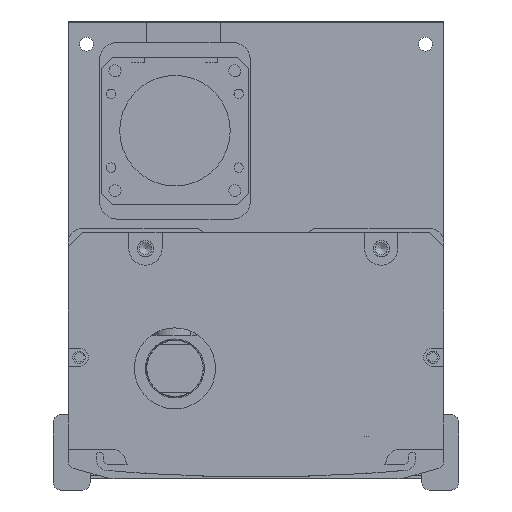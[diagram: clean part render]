
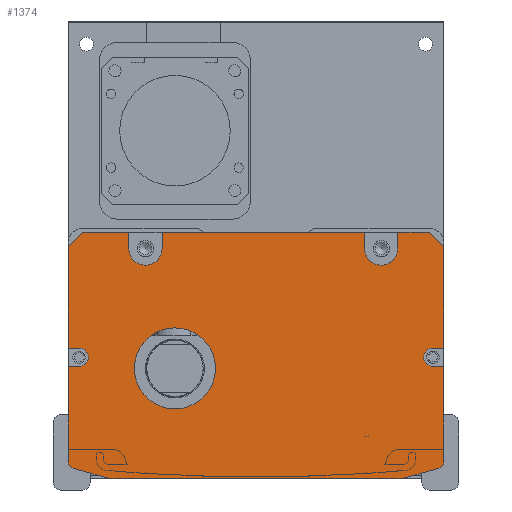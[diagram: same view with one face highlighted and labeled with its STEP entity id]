
A CAD part, front view. The second image highlights one B-rep face of the part: STEP entity #1374.
In plain terms, the highlighted planar face has unit normal (0, -1, 0).
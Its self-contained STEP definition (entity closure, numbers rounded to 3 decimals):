
#1374=ADVANCED_FACE('',(#4064,#4065),#2183,.F.);
#2183=PLANE('',#13348);
#2577=LINE('',#19130,#3339);
#2578=LINE('',#19133,#3340);
#2579=LINE('',#19135,#3341);
#2580=LINE('',#19137,#3342);
#2581=LINE('',#19141,#3343);
#2582=LINE('',#19143,#3344);
#2583=LINE('',#19145,#3345);
#2584=LINE('',#19149,#3346);
#2585=LINE('',#19151,#3347);
#2586=LINE('',#19153,#3348);
#2587=LINE('',#19155,#3349);
#2588=LINE('',#19157,#3350);
#2589=LINE('',#19161,#3351);
#2590=LINE('',#19163,#3352);
#2591=LINE('',#19167,#3353);
#2592=LINE('',#19171,#3354);
#2593=LINE('',#19175,#3355);
#2594=LINE('',#19179,#3356);
#2595=LINE('',#19181,#3357);
#2596=LINE('',#19185,#3358);
#3339=VECTOR('',#15147,1.);
#3340=VECTOR('',#15148,1.);
#3341=VECTOR('',#15149,1.);
#3342=VECTOR('',#15150,1.);
#3343=VECTOR('',#15153,1.);
#3344=VECTOR('',#15154,1.);
#3345=VECTOR('',#15155,1.);
#3346=VECTOR('',#15158,1.);
#3347=VECTOR('',#15159,1.);
#3348=VECTOR('',#15160,1.);
#3349=VECTOR('',#15161,1.);
#3350=VECTOR('',#15162,1.);
#3351=VECTOR('',#15165,1.);
#3352=VECTOR('',#15166,1.);
#3353=VECTOR('',#15169,1.);
#3354=VECTOR('',#15172,1.);
#3355=VECTOR('',#15175,1.);
#3356=VECTOR('',#15178,1.);
#3357=VECTOR('',#15179,1.);
#3358=VECTOR('',#15182,1.);
#4064=FACE_BOUND('',#4790,.T.);
#4065=FACE_BOUND('',#4791,.T.);
#4790=EDGE_LOOP('',(#6129,#6130,#6131,#6132,#6133,#6134,#6135,#6136,#6137,
#6138,#6139,#6140,#6141,#6142,#6143,#6144,#6145,#6146,#6147,#6148,#6149,
#6150,#6151,#6152,#6153,#6154,#6155,#6156));
#4791=EDGE_LOOP('',(#6157));
#6129=ORIENTED_EDGE('',*,*,#10895,.T.);
#6130=ORIENTED_EDGE('',*,*,#10896,.T.);
#6131=ORIENTED_EDGE('',*,*,#10897,.T.);
#6132=ORIENTED_EDGE('',*,*,#10898,.F.);
#6133=ORIENTED_EDGE('',*,*,#10899,.T.);
#6134=ORIENTED_EDGE('',*,*,#10900,.F.);
#6135=ORIENTED_EDGE('',*,*,#10901,.T.);
#6136=ORIENTED_EDGE('',*,*,#10902,.F.);
#6137=ORIENTED_EDGE('',*,*,#10903,.T.);
#6138=ORIENTED_EDGE('',*,*,#10904,.F.);
#6139=ORIENTED_EDGE('',*,*,#10905,.T.);
#6140=ORIENTED_EDGE('',*,*,#10906,.T.);
#6141=ORIENTED_EDGE('',*,*,#10907,.T.);
#6142=ORIENTED_EDGE('',*,*,#10908,.T.);
#6143=ORIENTED_EDGE('',*,*,#10909,.T.);
#6144=ORIENTED_EDGE('',*,*,#10910,.T.);
#6145=ORIENTED_EDGE('',*,*,#10911,.T.);
#6146=ORIENTED_EDGE('',*,*,#10912,.T.);
#6147=ORIENTED_EDGE('',*,*,#10913,.T.);
#6148=ORIENTED_EDGE('',*,*,#10914,.T.);
#6149=ORIENTED_EDGE('',*,*,#10915,.T.);
#6150=ORIENTED_EDGE('',*,*,#10916,.T.);
#6151=ORIENTED_EDGE('',*,*,#10917,.T.);
#6152=ORIENTED_EDGE('',*,*,#10918,.T.);
#6153=ORIENTED_EDGE('',*,*,#10919,.T.);
#6154=ORIENTED_EDGE('',*,*,#10920,.T.);
#6155=ORIENTED_EDGE('',*,*,#10921,.T.);
#6156=ORIENTED_EDGE('',*,*,#10922,.T.);
#6157=ORIENTED_EDGE('',*,*,#10923,.T.);
#9620=VERTEX_POINT('',#19131);
#9621=VERTEX_POINT('',#19132);
#9622=VERTEX_POINT('',#19134);
#9623=VERTEX_POINT('',#19136);
#9624=VERTEX_POINT('',#19138);
#9625=VERTEX_POINT('',#19140);
#9626=VERTEX_POINT('',#19142);
#9627=VERTEX_POINT('',#19144);
#9628=VERTEX_POINT('',#19146);
#9629=VERTEX_POINT('',#19148);
#9630=VERTEX_POINT('',#19150);
#9631=VERTEX_POINT('',#19152);
#9632=VERTEX_POINT('',#19154);
#9633=VERTEX_POINT('',#19156);
#9634=VERTEX_POINT('',#19158);
#9635=VERTEX_POINT('',#19160);
#9636=VERTEX_POINT('',#19162);
#9637=VERTEX_POINT('',#19164);
#9638=VERTEX_POINT('',#19166);
#9639=VERTEX_POINT('',#19168);
#9640=VERTEX_POINT('',#19170);
#9641=VERTEX_POINT('',#19172);
#9642=VERTEX_POINT('',#19174);
#9643=VERTEX_POINT('',#19176);
#9644=VERTEX_POINT('',#19178);
#9645=VERTEX_POINT('',#19180);
#9646=VERTEX_POINT('',#19182);
#9647=VERTEX_POINT('',#19184);
#9648=VERTEX_POINT('',#19187);
#10895=EDGE_CURVE('',#9620,#9621,#2577,.T.);
#10896=EDGE_CURVE('',#9621,#9622,#2578,.T.);
#10897=EDGE_CURVE('',#9622,#9623,#2579,.T.);
#10898=EDGE_CURVE('',#9624,#9623,#2580,.T.);
#10899=EDGE_CURVE('',#9624,#9625,#12546,.T.);
#10900=EDGE_CURVE('',#9626,#9625,#2581,.T.);
#10901=EDGE_CURVE('',#9626,#9627,#2582,.T.);
#10902=EDGE_CURVE('',#9628,#9627,#2583,.T.);
#10903=EDGE_CURVE('',#9628,#9629,#12547,.T.);
#10904=EDGE_CURVE('',#9630,#9629,#2584,.T.);
#10905=EDGE_CURVE('',#9630,#9631,#2585,.T.);
#10906=EDGE_CURVE('',#9631,#9632,#2586,.T.);
#10907=EDGE_CURVE('',#9632,#9633,#2587,.T.);
#10908=EDGE_CURVE('',#9633,#9634,#2588,.T.);
#10909=EDGE_CURVE('',#9634,#9635,#12548,.T.);
#10910=EDGE_CURVE('',#9635,#9636,#2589,.T.);
#10911=EDGE_CURVE('',#9636,#9637,#2590,.T.);
#10912=EDGE_CURVE('',#9637,#9638,#12549,.T.);
#10913=EDGE_CURVE('',#9638,#9639,#2591,.T.);
#10914=EDGE_CURVE('',#9639,#9640,#12550,.T.);
#10915=EDGE_CURVE('',#9640,#9641,#2592,.T.);
#10916=EDGE_CURVE('',#9641,#9642,#12551,.T.);
#10917=EDGE_CURVE('',#9642,#9643,#2593,.T.);
#10918=EDGE_CURVE('',#9643,#9644,#12552,.T.);
#10919=EDGE_CURVE('',#9644,#9645,#2594,.T.);
#10920=EDGE_CURVE('',#9645,#9646,#2595,.T.);
#10921=EDGE_CURVE('',#9646,#9647,#12553,.T.);
#10922=EDGE_CURVE('',#9647,#9620,#2596,.T.);
#10923=EDGE_CURVE('',#9648,#9648,#12554,.T.);
#12546=CIRCLE('',#13339,4.5);
#12547=CIRCLE('',#13340,4.5);
#12548=CIRCLE('',#13341,2.5);
#12549=CIRCLE('',#13342,2.);
#12550=CIRCLE('',#13343,10.);
#12551=CIRCLE('',#13344,10.);
#12552=CIRCLE('',#13345,2.);
#12553=CIRCLE('',#13346,2.5);
#12554=CIRCLE('',#13347,11.);
#13339=AXIS2_PLACEMENT_3D('',#19139,#15151,#15152);
#13340=AXIS2_PLACEMENT_3D('',#19147,#15156,#15157);
#13341=AXIS2_PLACEMENT_3D('',#19159,#15163,#15164);
#13342=AXIS2_PLACEMENT_3D('',#19165,#15167,#15168);
#13343=AXIS2_PLACEMENT_3D('',#19169,#15170,#15171);
#13344=AXIS2_PLACEMENT_3D('',#19173,#15173,#15174);
#13345=AXIS2_PLACEMENT_3D('',#19177,#15176,#15177);
#13346=AXIS2_PLACEMENT_3D('',#19183,#15180,#15181);
#13347=AXIS2_PLACEMENT_3D('',#19186,#15183,#15184);
#13348=AXIS2_PLACEMENT_3D('',#19188,#15185,#15186);
#15147=DIRECTION('',(0.,0.,1.));
#15148=DIRECTION('',(-0.707,0.,0.707));
#15149=DIRECTION('',(-1.,0.,0.));
#15150=DIRECTION('',(0.,0.,1.));
#15151=DIRECTION('',(0.,1.,0.));
#15152=DIRECTION('',(0.,0.,1.));
#15153=DIRECTION('',(0.,0.,-1.));
#15154=DIRECTION('',(-1.,0.,0.));
#15155=DIRECTION('',(0.,0.,1.));
#15156=DIRECTION('',(0.,1.,0.));
#15157=DIRECTION('',(0.,0.,1.));
#15158=DIRECTION('',(0.,0.,-1.));
#15159=DIRECTION('',(-1.,0.,0.));
#15160=DIRECTION('',(-0.707,0.,-0.707));
#15161=DIRECTION('',(0.,0.,-1.));
#15162=DIRECTION('',(1.,0.,0.));
#15163=DIRECTION('',(0.,1.,0.));
#15164=DIRECTION('',(0.,0.,1.));
#15165=DIRECTION('',(-1.,0.,0.));
#15166=DIRECTION('',(0.,0.,-1.));
#15167=DIRECTION('',(0.,-1.,0.));
#15168=DIRECTION('',(0.,0.,1.));
#15169=DIRECTION('',(0.963,0.,-0.269));
#15170=DIRECTION('',(0.,-1.,0.));
#15171=DIRECTION('',(0.,0.,1.));
#15172=DIRECTION('',(1.,0.,0.));
#15173=DIRECTION('',(0.,-1.,0.));
#15174=DIRECTION('',(0.,0.,-1.));
#15175=DIRECTION('',(0.963,0.,0.269));
#15176=DIRECTION('',(0.,-1.,0.));
#15177=DIRECTION('',(0.,0.,-1.));
#15178=DIRECTION('',(0.,0.,1.));
#15179=DIRECTION('',(-1.,0.,0.));
#15180=DIRECTION('',(0.,1.,0.));
#15181=DIRECTION('',(0.,0.,1.));
#15182=DIRECTION('',(1.,0.,0.));
#15183=DIRECTION('',(0.,1.,0.));
#15184=DIRECTION('',(0.,0.,1.));
#15185=DIRECTION('',(0.,1.,0.));
#15186=DIRECTION('',(-1.,0.,0.));
#19130=CARTESIAN_POINT('',(47.808,-817.5,-1.));
#19131=CARTESIAN_POINT('',(47.808,-817.5,-32.5));
#19132=CARTESIAN_POINT('',(47.808,-817.5,-5.));
#19133=CARTESIAN_POINT('',(43.808,-817.5,-1.));
#19134=CARTESIAN_POINT('',(43.808,-817.5,-1.));
#19135=CARTESIAN_POINT('',(-3.192,-817.5,-1.));
#19136=CARTESIAN_POINT('',(35.308,-817.5,-1.));
#19137=CARTESIAN_POINT('',(35.308,-817.5,-1.));
#19138=CARTESIAN_POINT('',(35.308,-817.5,-5.5));
#19139=CARTESIAN_POINT('',(30.808,-817.5,-5.5));
#19140=CARTESIAN_POINT('',(26.308,-817.5,-5.5));
#19141=CARTESIAN_POINT('',(26.308,-817.5,-1.));
#19142=CARTESIAN_POINT('',(26.308,-817.5,-1.));
#19143=CARTESIAN_POINT('',(-54.192,-817.5,-1.));
#19144=CARTESIAN_POINT('',(-28.692,-817.5,-1.));
#19145=CARTESIAN_POINT('',(-28.692,-817.5,-3.5));
#19146=CARTESIAN_POINT('',(-28.692,-817.5,-5.5));
#19147=CARTESIAN_POINT('',(-33.192,-817.5,-5.5));
#19148=CARTESIAN_POINT('',(-37.692,-817.5,-5.5));
#19149=CARTESIAN_POINT('',(-37.692,-817.5,-1.));
#19150=CARTESIAN_POINT('',(-37.692,-817.5,-1.));
#19151=CARTESIAN_POINT('',(-54.192,-817.5,-1.));
#19152=CARTESIAN_POINT('',(-50.192,-817.5,-1.));
#19153=CARTESIAN_POINT('',(-54.192,-817.5,-5.));
#19154=CARTESIAN_POINT('',(-54.192,-817.5,-5.));
#19155=CARTESIAN_POINT('',(-54.192,-817.5,-62.));
#19156=CARTESIAN_POINT('',(-54.192,-817.5,-32.5));
#19157=CARTESIAN_POINT('',(-3.192,-817.5,-32.5));
#19158=CARTESIAN_POINT('',(-51.192,-817.5,-32.5));
#19159=CARTESIAN_POINT('',(-51.192,-817.5,-35.));
#19160=CARTESIAN_POINT('',(-51.192,-817.5,-37.5));
#19161=CARTESIAN_POINT('',(-3.192,-817.5,-37.5));
#19162=CARTESIAN_POINT('',(-54.192,-817.5,-37.5));
#19163=CARTESIAN_POINT('',(-54.192,-817.5,-62.));
#19164=CARTESIAN_POINT('',(-54.192,-817.5,-63.212));
#19165=CARTESIAN_POINT('',(-52.192,-817.5,-63.212));
#19166=CARTESIAN_POINT('',(-52.731,-817.5,-65.138));
#19167=CARTESIAN_POINT('',(-55.807,-817.5,-64.279));
#19168=CARTESIAN_POINT('',(-43.809,-817.5,-67.631));
#19169=CARTESIAN_POINT('',(-41.118,-817.5,-58.));
#19170=CARTESIAN_POINT('',(-41.118,-817.5,-68.));
#19171=CARTESIAN_POINT('',(-54.692,-817.5,-68.));
#19172=CARTESIAN_POINT('',(34.733,-817.5,-68.));
#19173=CARTESIAN_POINT('',(34.733,-817.5,-58.));
#19174=CARTESIAN_POINT('',(37.424,-817.5,-67.631));
#19175=CARTESIAN_POINT('',(49.422,-817.5,-64.279));
#19176=CARTESIAN_POINT('',(46.346,-817.5,-65.138));
#19177=CARTESIAN_POINT('',(45.808,-817.5,-63.212));
#19178=CARTESIAN_POINT('',(47.808,-817.5,-63.212));
#19179=CARTESIAN_POINT('',(47.808,-817.5,-1.));
#19180=CARTESIAN_POINT('',(47.808,-817.5,-37.5));
#19181=CARTESIAN_POINT('',(-3.192,-817.5,-37.5));
#19182=CARTESIAN_POINT('',(44.808,-817.5,-37.5));
#19183=CARTESIAN_POINT('',(44.808,-817.5,-35.));
#19184=CARTESIAN_POINT('',(44.808,-817.5,-32.5));
#19185=CARTESIAN_POINT('',(-3.192,-817.5,-32.5));
#19186=CARTESIAN_POINT('',(-25.192,-817.5,-38.));
#19187=CARTESIAN_POINT('',(-25.192,-817.5,-27.));
#19188=CARTESIAN_POINT('',(-3.192,-817.5,-1.));
